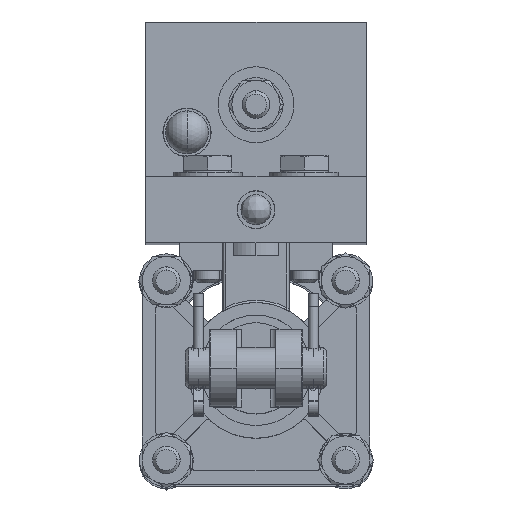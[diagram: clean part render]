
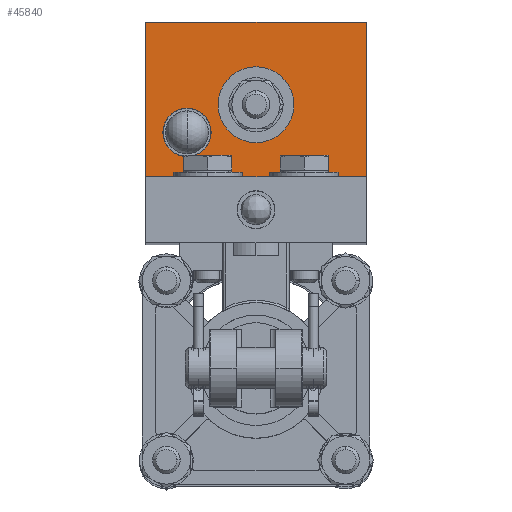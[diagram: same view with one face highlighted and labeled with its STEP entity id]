
A CAD part, top view. The second image highlights one B-rep face of the part: STEP entity #45840.
In plain terms, the highlighted planar face has unit normal (0, 0, 1).
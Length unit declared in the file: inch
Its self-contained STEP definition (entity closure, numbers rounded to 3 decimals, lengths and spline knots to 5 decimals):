
#4 = ORIENTED_EDGE ( 'NONE', *, *, #30620, .T. ) ;
#2091 = CARTESIAN_POINT ( 'NONE',  ( -0.84375, 2.158, 4.65625 ) ) ;
#2396 = AXIS2_PLACEMENT_3D ( 'NONE', #33092, #28407, #7226 ) ;
#2715 = CIRCLE ( 'NONE', #26949, 0.21875 ) ;
#3232 = EDGE_CURVE ( 'NONE', #5164, #22868, #2715, .T. ) ;
#3409 = DIRECTION ( 'NONE',  ( 1., 0., 0. ) ) ;
#3581 = CARTESIAN_POINT ( 'NONE',  ( 1., 3.158, 4.65625 ) ) ;
#3801 = CARTESIAN_POINT ( 'NONE',  ( -1., 3.158, 4.65625 ) ) ;
#4596 = CARTESIAN_POINT ( 'NONE',  ( -1., 1.752, 4.65625 ) ) ;
#4754 = CARTESIAN_POINT ( 'NONE',  ( -1., 3.158, 4.65625 ) ) ;
#5005 = CARTESIAN_POINT ( 'NONE',  ( -1., 3.158, 4.65625 ) ) ;
#5164 = VERTEX_POINT ( 'NONE', #2091 ) ;
#6036 = LINE ( 'NONE', #5005, #33173 ) ;
#7226 = DIRECTION ( 'NONE',  ( 0., -1., 0. ) ) ;
#7383 = DIRECTION ( 'NONE',  ( -1., 0., 0. ) ) ;
#7689 = CARTESIAN_POINT ( 'NONE',  ( -0.40625, 2.158, 4.65625 ) ) ;
#7805 = EDGE_CURVE ( 'NONE', #18453, #39186, #10241, .T. ) ;
#8724 = DIRECTION ( 'NONE',  ( 1., 0., 0. ) ) ;
#8868 = DIRECTION ( 'NONE',  ( 0., 0., 1. ) ) ;
#9128 = VECTOR ( 'NONE', #39853, 39.37008 ) ;
#9460 = CARTESIAN_POINT ( 'NONE',  ( -0.625, 2.158, 4.65625 ) ) ;
#9602 = CIRCLE ( 'NONE', #24692, 0.21875 ) ;
#9671 = AXIS2_PLACEMENT_3D ( 'NONE', #33408, #12172, #37012 ) ;
#10241 = LINE ( 'NONE', #25657, #9128 ) ;
#10794 = CIRCLE ( 'NONE', #9671, 0.32 ) ;
#11264 = VECTOR ( 'NONE', #23184, 39.37008 ) ;
#11809 = VERTEX_POINT ( 'NONE', #19075 ) ;
#12172 = DIRECTION ( 'NONE',  ( 0., 0., 1. ) ) ;
#12355 = LINE ( 'NONE', #33883, #11264 ) ;
#13098 = VERTEX_POINT ( 'NONE', #3581 ) ;
#13408 = AXIS2_PLACEMENT_3D ( 'NONE', #3801, #28574, #7383 ) ;
#13929 = LINE ( 'NONE', #4596, #22227 ) ;
#15238 = ORIENTED_EDGE ( 'NONE', *, *, #40594, .F. ) ;
#16261 = VERTEX_POINT ( 'NONE', #22473 ) ;
#16364 = VERTEX_POINT ( 'NONE', #44453 ) ;
#17125 = DIRECTION ( 'NONE',  ( 0., 0., 1. ) ) ;
#18453 = VERTEX_POINT ( 'NONE', #35880 ) ;
#19075 = CARTESIAN_POINT ( 'NONE',  ( 0., 2.728, 4.65625 ) ) ;
#19335 = EDGE_LOOP ( 'NONE', ( #41168, #28875 ) ) ;
#20819 = FACE_OUTER_BOUND ( 'NONE', #28751, .T. ) ;
#22227 = VECTOR ( 'NONE', #32923, 39.37008 ) ;
#22473 = CARTESIAN_POINT ( 'NONE',  ( 0., 2.088, 4.65625 ) ) ;
#22868 = VERTEX_POINT ( 'NONE', #7689 ) ;
#23184 = DIRECTION ( 'NONE',  ( 0., 1., 0. ) ) ;
#23838 = ORIENTED_EDGE ( 'NONE', *, *, #34917, .T. ) ;
#24023 = EDGE_CURVE ( 'NONE', #11809, #16261, #33763, .T. ) ;
#24692 = AXIS2_PLACEMENT_3D ( 'NONE', #38450, #17125, #42033 ) ;
#25657 = CARTESIAN_POINT ( 'NONE',  ( -1., 3.158, 4.65625 ) ) ;
#26949 = AXIS2_PLACEMENT_3D ( 'NONE', #9460, #8868, #3409 ) ;
#28407 = DIRECTION ( 'NONE',  ( 0., 0., 1. ) ) ;
#28574 = DIRECTION ( 'NONE',  ( 0., 0., -1. ) ) ;
#28751 = EDGE_LOOP ( 'NONE', ( #30523, #38384, #23838, #4 ) ) ;
#28875 = ORIENTED_EDGE ( 'NONE', *, *, #24023, .F. ) ;
#30266 = FACE_BOUND ( 'NONE', #32068, .T. ) ;
#30523 = ORIENTED_EDGE ( 'NONE', *, *, #35466, .F. ) ;
#30620 = EDGE_CURVE ( 'NONE', #16364, #13098, #12355, .T. ) ;
#31969 = PLANE ( 'NONE',  #13408 ) ;
#32068 = EDGE_LOOP ( 'NONE', ( #15238, #40869 ) ) ;
#32923 = DIRECTION ( 'NONE',  ( 1., 0., 0. ) ) ;
#33092 = CARTESIAN_POINT ( 'NONE',  ( 0., 2.408, 4.65625 ) ) ;
#33173 = VECTOR ( 'NONE', #8724, 39.37008 ) ;
#33408 = CARTESIAN_POINT ( 'NONE',  ( 0., 2.408, 4.65625 ) ) ;
#33763 = CIRCLE ( 'NONE', #2396, 0.32 ) ;
#33883 = CARTESIAN_POINT ( 'NONE',  ( 1., 3.158, 4.65625 ) ) ;
#34917 = EDGE_CURVE ( 'NONE', #18453, #16364, #13929, .T. ) ;
#35466 = EDGE_CURVE ( 'NONE', #39186, #13098, #6036, .T. ) ;
#35880 = CARTESIAN_POINT ( 'NONE',  ( -1., 1.752, 4.65625 ) ) ;
#37012 = DIRECTION ( 'NONE',  ( 0., -1., 0. ) ) ;
#38384 = ORIENTED_EDGE ( 'NONE', *, *, #7805, .F. ) ;
#38450 = CARTESIAN_POINT ( 'NONE',  ( -0.625, 2.158, 4.65625 ) ) ;
#39186 = VERTEX_POINT ( 'NONE', #4754 ) ;
#39800 = FACE_BOUND ( 'NONE', #19335, .T. ) ;
#39853 = DIRECTION ( 'NONE',  ( 0., 1., 0. ) ) ;
#40594 = EDGE_CURVE ( 'NONE', #22868, #5164, #9602, .T. ) ;
#40869 = ORIENTED_EDGE ( 'NONE', *, *, #3232, .F. ) ;
#41168 = ORIENTED_EDGE ( 'NONE', *, *, #43009, .F. ) ;
#42033 = DIRECTION ( 'NONE',  ( 1., 0., 0. ) ) ;
#43009 = EDGE_CURVE ( 'NONE', #16261, #11809, #10794, .T. ) ;
#44453 = CARTESIAN_POINT ( 'NONE',  ( 1., 1.752, 4.65625 ) ) ;
#45840 = ADVANCED_FACE ( 'NONE', ( #20819, #39800, #30266 ), #31969, .F. ) ;
